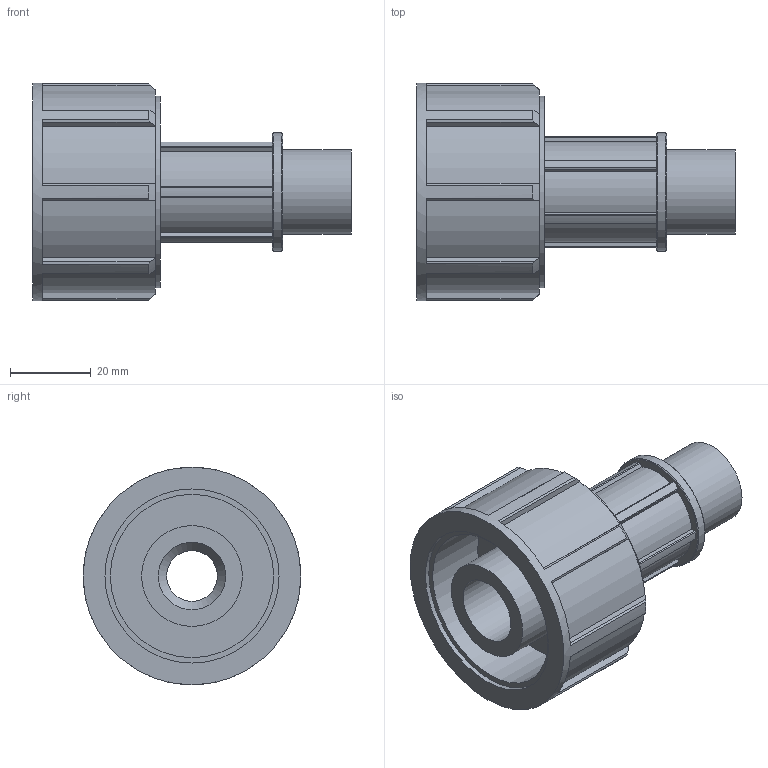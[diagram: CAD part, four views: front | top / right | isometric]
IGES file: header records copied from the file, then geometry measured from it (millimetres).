
Global section: file name: 072500025005_182500025005_0725060250050A.ipt; native system: Autodesk Inventor 2015; preprocessor: unknown; author: KIM; date: 20170608.042134; units: millimetre
Bounding box: 79 x 54 x 54 mm (x, y, z)
Volume: 53383.6 mm3; surface area: 23822.6 mm2
Topology: 1 solids, 1 shells, 115 faces, 322 edges, 217 vertices
Faces by surface type: plane 74, cylinder 25, cone 10, revolution 6
Full cylindrical faces by diameter (mm): 20.955 x1, 25 x1, 29.337 x1, 47.52 x1, 54 x1
